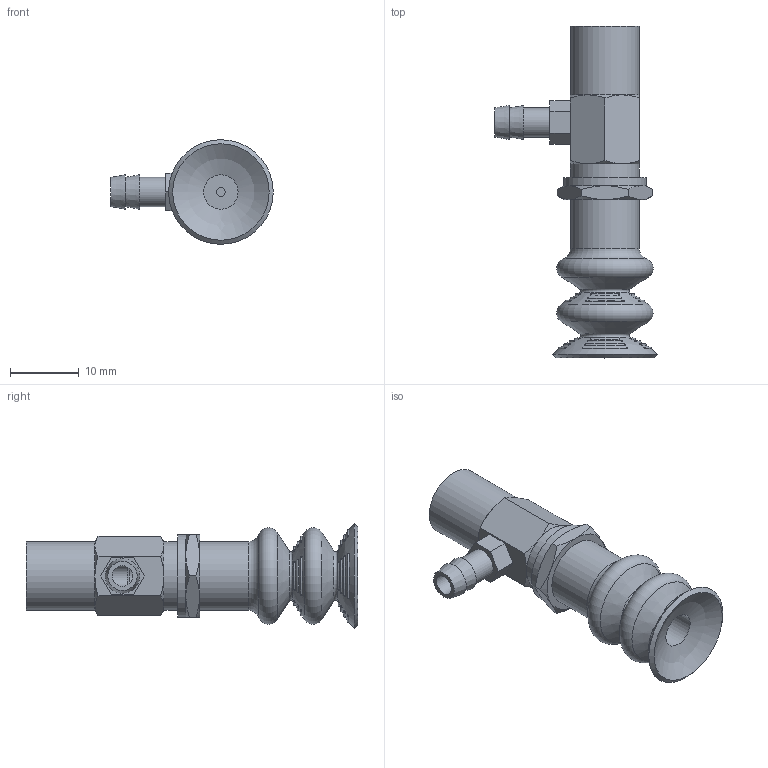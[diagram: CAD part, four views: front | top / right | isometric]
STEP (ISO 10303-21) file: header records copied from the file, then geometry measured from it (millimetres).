
FILE_DESCRIPTION(('STEP AP203'),'1');
FILE_NAME('.stp','2025-06-02T07:58:58',(' '),(' '),'Spatial InterOp 3D',' ',' ');
FILE_SCHEMA(('CONFIG_CONTROL_DESIGN'));
Length unit declared in the file: millimetre
Products named in the file (5): BBPCYK-15-※; Adapter-15-Y; PCYK-15; BPCG-15-※; PCYK-15(2)
Assembly tree (4 placements, depth 2):
  BBPCYK-15-※
    Adapter-15-Y
    PCYK-15
    BPCG-15-※
    PCYK-15(2)
Bounding box: 23.6 x 48.2 x 15.2 mm (x, y, z)
Volume: 3954 mm3; surface area: 3713.5 mm2
Topology: 4 solids, 4 shells, 185 faces, 599 edges, 393 vertices
Faces by surface type: sphere 58, cone 40, plane 36, torus 34, cylinder 17
Full cylindrical faces by diameter (mm): 1.25 x1, 3 x3, 3.242 x1, 4.134 x1, 4.26 x1, 5 x5, 10 x3, 12 x1
Entity records: 5693 total; most frequent: CARTESIAN_POINT 1499, DIRECTION 864, ORIENTED_EDGE 736, AXIS2_PLACEMENT_3D 413, EDGE_CURVE 368, EDGE_LOOP 262, VERTEX_POINT 261, CIRCLE 223
